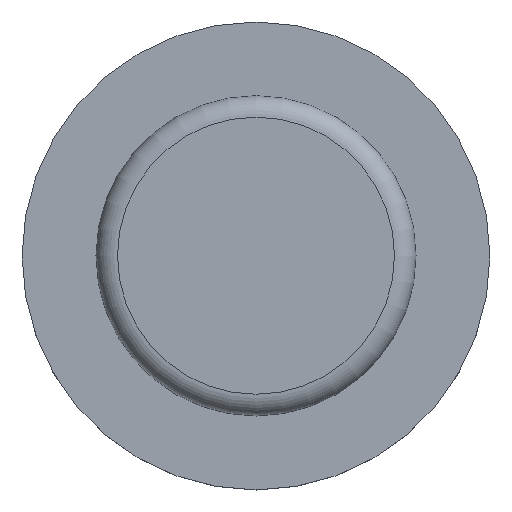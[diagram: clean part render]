
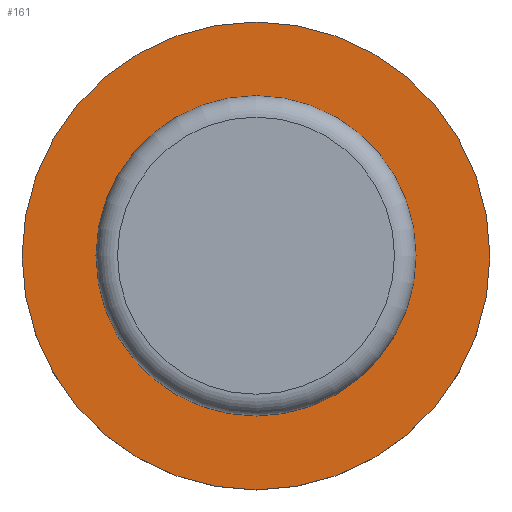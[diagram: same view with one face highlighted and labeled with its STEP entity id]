
A CAD part, top view. The second image highlights one B-rep face of the part: STEP entity #161.
In plain terms, the highlighted planar face has unit normal (0, 0, 1).
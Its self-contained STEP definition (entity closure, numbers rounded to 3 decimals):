
#22 = VERTEX_POINT('',#23);
#23 = CARTESIAN_POINT('',(2.6,1.9,89.2));
#32 = CYLINDRICAL_SURFACE('',#33,2.6);
#33 = AXIS2_PLACEMENT_3D('',#34,#35,#36);
#34 = CARTESIAN_POINT('',(0.,1.9,89.2));
#35 = DIRECTION('',(0.,0.,-1.));
#36 = DIRECTION('',(1.,0.,0.));
#79 = EDGE_CURVE('',#22,#22,#80,.T.);
#80 = SURFACE_CURVE('',#81,(#86,#93),.PCURVE_S1.);
#81 = CIRCLE('',#82,2.6);
#82 = AXIS2_PLACEMENT_3D('',#83,#84,#85);
#83 = CARTESIAN_POINT('',(0.,1.9,89.2));
#84 = DIRECTION('',(0.,0.,-1.));
#85 = DIRECTION('',(1.,0.,0.));
#86 = PCURVE('',#32,#87);
#87 = DEFINITIONAL_REPRESENTATION('',(#88),#92);
#88 = LINE('',#89,#90);
#89 = CARTESIAN_POINT('',(0.,0.));
#90 = VECTOR('',#91,1.);
#91 = DIRECTION('',(1.,0.));
#92 = ( GEOMETRIC_REPRESENTATION_CONTEXT(2) 
PARAMETRIC_REPRESENTATION_CONTEXT() REPRESENTATION_CONTEXT('2D SPACE',''
  ) );
#93 = PCURVE('',#94,#99);
#94 = PLANE('',#95);
#95 = AXIS2_PLACEMENT_3D('',#96,#97,#98);
#96 = CARTESIAN_POINT('',(0.,1.9,89.2));
#97 = DIRECTION('',(-0.,0.,-1.));
#98 = DIRECTION('',(0.,1.,0.));
#99 = DEFINITIONAL_REPRESENTATION('',(#100),#104);
#100 = CIRCLE('',#101,2.6);
#101 = AXIS2_PLACEMENT_2D('',#102,#103);
#102 = CARTESIAN_POINT('',(0.,0.));
#103 = DIRECTION('',(0.,1.));
#104 = ( GEOMETRIC_REPRESENTATION_CONTEXT(2) 
PARAMETRIC_REPRESENTATION_CONTEXT() REPRESENTATION_CONTEXT('2D SPACE',''
  ) );
#161 = ADVANCED_FACE('',(#162,#193),#94,.F.);
#162 = FACE_BOUND('',#163,.F.);
#163 = EDGE_LOOP('',(#164));
#164 = ORIENTED_EDGE('',*,*,#165,.T.);
#165 = EDGE_CURVE('',#166,#166,#168,.T.);
#166 = VERTEX_POINT('',#167);
#167 = CARTESIAN_POINT('',(3.8,1.9,89.2));
#168 = SURFACE_CURVE('',#169,(#174,#181),.PCURVE_S1.);
#169 = CIRCLE('',#170,3.8);
#170 = AXIS2_PLACEMENT_3D('',#171,#172,#173);
#171 = CARTESIAN_POINT('',(0.,1.9,89.2));
#172 = DIRECTION('',(0.,0.,-1.));
#173 = DIRECTION('',(1.,0.,0.));
#174 = PCURVE('',#94,#175);
#175 = DEFINITIONAL_REPRESENTATION('',(#176),#180);
#176 = CIRCLE('',#177,3.8);
#177 = AXIS2_PLACEMENT_2D('',#178,#179);
#178 = CARTESIAN_POINT('',(0.,0.));
#179 = DIRECTION('',(0.,1.));
#180 = ( GEOMETRIC_REPRESENTATION_CONTEXT(2) 
PARAMETRIC_REPRESENTATION_CONTEXT() REPRESENTATION_CONTEXT('2D SPACE',''
  ) );
#181 = PCURVE('',#182,#187);
#182 = CYLINDRICAL_SURFACE('',#183,3.8);
#183 = AXIS2_PLACEMENT_3D('',#184,#185,#186);
#184 = CARTESIAN_POINT('',(0.,1.9,88.2));
#185 = DIRECTION('',(0.,0.,-1.));
#186 = DIRECTION('',(1.,0.,0.));
#187 = DEFINITIONAL_REPRESENTATION('',(#188),#192);
#188 = LINE('',#189,#190);
#189 = CARTESIAN_POINT('',(0.,-1.));
#190 = VECTOR('',#191,1.);
#191 = DIRECTION('',(1.,0.));
#192 = ( GEOMETRIC_REPRESENTATION_CONTEXT(2) 
PARAMETRIC_REPRESENTATION_CONTEXT() REPRESENTATION_CONTEXT('2D SPACE',''
  ) );
#193 = FACE_BOUND('',#194,.F.);
#194 = EDGE_LOOP('',(#195));
#195 = ORIENTED_EDGE('',*,*,#79,.F.);
